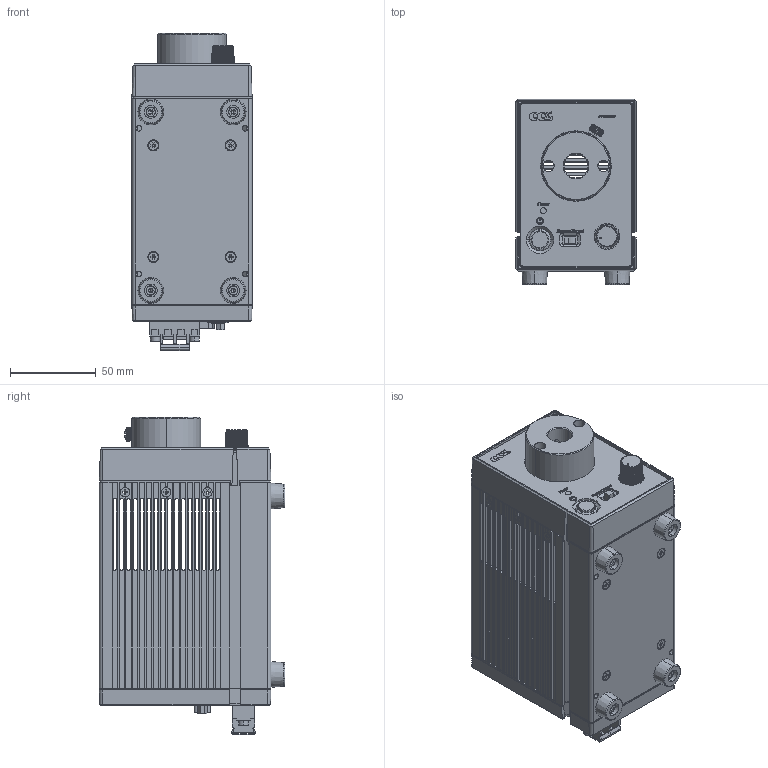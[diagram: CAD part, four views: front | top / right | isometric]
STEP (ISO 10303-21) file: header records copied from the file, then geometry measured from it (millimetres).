
FILE_DESCRIPTION (( 'STEP AP203' ), '1' );
FILE_NAME ('CS1.STEP', '2021-12-27T08:19:24', ( 'CCS' ), ( 'シーシーエス株式会社' ), 'SwSTEP 2.0', 'SolidWorks 2017', '' );
FILE_SCHEMA (( 'CONFIG_CONTROL_DESIGN' ));
Length unit declared in the file: millimetre
Products named in the file (1): CS1
Bounding box: 70 x 108 x 184.88 mm (x, y, z)
Surface area: 137657.1 mm2 (no closed solid volume)
Topology: 0 solids, 92 shells, 1746 faces, 6959 edges, 5173 vertices
Faces by surface type: plane 1051, cylinder 320, cone 303, torus 30, sphere 30, bspline 12
Entity records: 79140 total; most frequent: CARTESIAN_POINT 24225, ORIENTED_EDGE 10732, DIRECTION 10487, EDGE_CURVE 6877, VERTEX_POINT 5143, VECTOR 3871, LINE 3871, AXIS2_PLACEMENT_3D 3308
